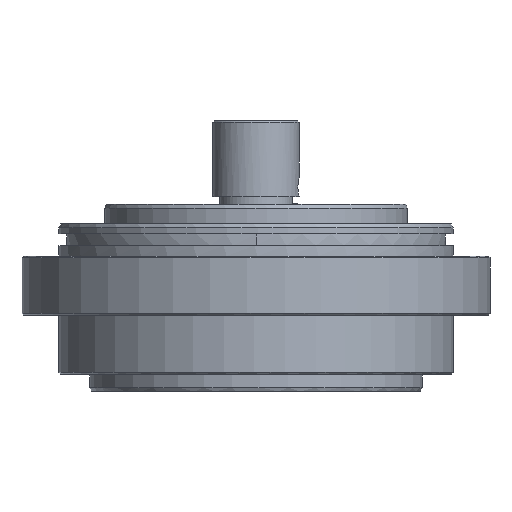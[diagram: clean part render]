
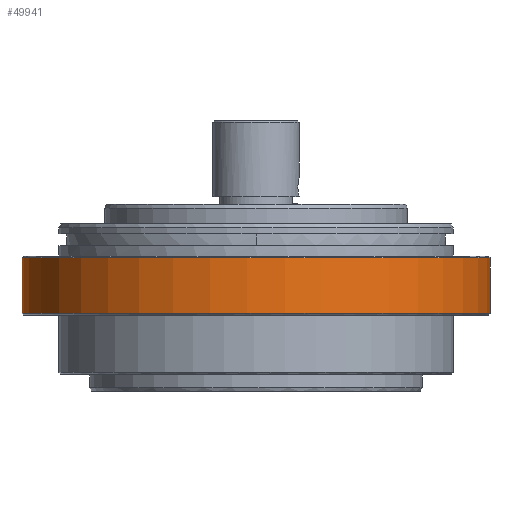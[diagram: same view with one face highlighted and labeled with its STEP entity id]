
A CAD part, front view. The second image highlights one B-rep face of the part: STEP entity #49941.
In plain terms, the highlighted cylindrical face has radius 95 mm (diameter 190 mm), a partial arc.
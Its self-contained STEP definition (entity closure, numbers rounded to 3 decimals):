
#466 = CARTESIAN_POINT ( 'NONE',  ( -75.535, -57.949, 23.2 ) ) ;
#631 = CARTESIAN_POINT ( 'NONE',  ( 75.535, -57.949, 0.8 ) ) ;
#2851 = CARTESIAN_POINT ( 'NONE',  ( -91.962, -24.632, 23.2 ) ) ;
#3301 = DIRECTION ( 'NONE',  ( 0., 0., 1. ) ) ;
#4395 = CYLINDRICAL_SURFACE ( 'NONE', #32476, 95. ) ;
#8525 = CARTESIAN_POINT ( 'NONE',  ( -75.535, -57.949, 0.8 ) ) ;
#9547 = CARTESIAN_POINT ( 'NONE',  ( -71.572, -62.779, 23.2 ) ) ;
#9730 = CARTESIAN_POINT ( 'NONE',  ( -24.632, -91.962, 0.8 ) ) ;
#10315 = CARTESIAN_POINT ( 'NONE',  ( 30.61, -90.148, 0.8 ) ) ;
#12480 = CARTESIAN_POINT ( 'NONE',  ( -95., 0., 23.2 ) ) ;
#12557 = EDGE_CURVE ( 'NONE', #87406, #104350, #89296, .T. ) ;
#16251 = CARTESIAN_POINT ( 'NONE',  ( -95., 0., 0. ) ) ;
#16844 = DIRECTION ( 'NONE',  ( 0., 0., 1. ) ) ;
#17600 = CARTESIAN_POINT ( 'NONE',  ( -71.572, -62.779, 0.8 ) ) ;
#18621 = CARTESIAN_POINT ( 'NONE',  ( -57.949, -75.535, 23.2 ) ) ;
#19210 = CARTESIAN_POINT ( 'NONE',  ( -30.61, -90.148, 23.2 ) ) ;
#19803 = CARTESIAN_POINT ( 'NONE',  ( 85.389, -42.099, 23.2 ) ) ;
#20396 = CARTESIAN_POINT ( 'NONE',  ( 82.444, -47.609, 23.2 ) ) ;
#21118 = EDGE_CURVE ( 'NONE', #64141, #87406, #91810, .T. ) ;
#21313 = B_SPLINE_CURVE_WITH_KNOTS ( 'NONE', 3,
 ( #73524, #118766, #38392, #54803, #66237, #19803, #20396, #57137, #94031, #28781, #109679, #27015, #65640, #56561, #36021, #74146, #91660, #45669, #119357, #27606, #19210, #64453, #101255, #18621, #55388, #9547, #466, #37238, #40168, #31111, #2851, #67438, #39582, #12480 ),
 .UNSPECIFIED., .F., .F.,
 ( 4, 2, 2, 2, 2, 2, 2, 2, 2, 2, 2, 2, 2, 2, 2, 2, 4 ),
 ( 0., 0.031, 0.063, 0.094, 0.125, 0.156, 0.188, 0.219, 0.25, 0.281, 0.313, 0.344, 0.375, 0.406, 0.438, 0.469, 0.5 ),
 .UNSPECIFIED. ) ;
#21342 = DIRECTION ( 'NONE',  ( 0., 0., 1. ) ) ;
#26586 = CARTESIAN_POINT ( 'NONE',  ( 71.572, -62.779, 0.8 ) ) ;
#27015 = CARTESIAN_POINT ( 'NONE',  ( 47.609, -82.444, 23.2 ) ) ;
#27606 = CARTESIAN_POINT ( 'NONE',  ( -24.632, -91.962, 23.2 ) ) ;
#27766 = CARTESIAN_POINT ( 'NONE',  ( 42.099, -85.389, 0.8 ) ) ;
#28781 = CARTESIAN_POINT ( 'NONE',  ( 62.779, -71.572, 23.2 ) ) ;
#29512 = CARTESIAN_POINT ( 'NONE',  ( -85.389, -42.099, 0.8 ) ) ;
#31111 = CARTESIAN_POINT ( 'NONE',  ( -90.148, -30.61, 23.2 ) ) ;
#31287 = CARTESIAN_POINT ( 'NONE',  ( -95., -6.218, 0.8 ) ) ;
#32476 = AXIS2_PLACEMENT_3D ( 'NONE', #67209, #21342, #105141 ) ;
#34048 = EDGE_CURVE ( 'NONE', #64141, #113037, #84757, .T. ) ;
#35007 = CARTESIAN_POINT ( 'NONE',  ( 95., -6.218, 0.8 ) ) ;
#35990 = VECTOR ( 'NONE', #3301, 1000. ) ;
#36021 = CARTESIAN_POINT ( 'NONE',  ( 24.632, -91.962, 23.2 ) ) ;
#37238 = CARTESIAN_POINT ( 'NONE',  ( -82.444, -47.609, 23.2 ) ) ;
#38392 = CARTESIAN_POINT ( 'NONE',  ( 94.388, -12.435, 23.2 ) ) ;
#39150 = CARTESIAN_POINT ( 'NONE',  ( -95., 0., 0.8 ) ) ;
#39582 = CARTESIAN_POINT ( 'NONE',  ( -95., -6.218, 23.2 ) ) ;
#40168 = CARTESIAN_POINT ( 'NONE',  ( -85.389, -42.099, 23.2 ) ) ;
#45260 = CARTESIAN_POINT ( 'NONE',  ( 85.389, -42.099, 0.8 ) ) ;
#45669 = CARTESIAN_POINT ( 'NONE',  ( -6.218, -95., 23.2 ) ) ;
#49941 = ADVANCED_FACE ( 'NONE', ( #68982 ), #4395, .T. ) ;
#53778 = CARTESIAN_POINT ( 'NONE',  ( 95., 0., 0.8 ) ) ;
#54803 = CARTESIAN_POINT ( 'NONE',  ( 91.962, -24.632, 23.2 ) ) ;
#55388 = CARTESIAN_POINT ( 'NONE',  ( -62.779, -71.572, 23.2 ) ) ;
#55546 = CARTESIAN_POINT ( 'NONE',  ( 90.148, -30.61, 0.8 ) ) ;
#56143 = CARTESIAN_POINT ( 'NONE',  ( 57.949, -75.535, 0.8 ) ) ;
#56561 = CARTESIAN_POINT ( 'NONE',  ( 30.61, -90.148, 23.2 ) ) ;
#56734 = CARTESIAN_POINT ( 'NONE',  ( -94.388, -12.435, 0.8 ) ) ;
#57137 = CARTESIAN_POINT ( 'NONE',  ( 75.535, -57.949, 23.2 ) ) ;
#63423 = CARTESIAN_POINT ( 'NONE',  ( -12.435, -94.388, 0.8 ) ) ;
#64141 = VERTEX_POINT ( 'NONE', #103533 ) ;
#64453 = CARTESIAN_POINT ( 'NONE',  ( -42.099, -85.389, 23.2 ) ) ;
#64588 = ORIENTED_EDGE ( 'NONE', *, *, #34048, .T. ) ;
#64622 = CARTESIAN_POINT ( 'NONE',  ( 6.218, -95., 0.8 ) ) ;
#65189 = CARTESIAN_POINT ( 'NONE',  ( -6.218, -95., 0.8 ) ) ;
#65640 = CARTESIAN_POINT ( 'NONE',  ( 42.099, -85.389, 23.2 ) ) ;
#65649 = CARTESIAN_POINT ( 'NONE',  ( -95., 0., 0.8 ) ) ;
#66237 = CARTESIAN_POINT ( 'NONE',  ( 90.148, -30.61, 23.2 ) ) ;
#66407 = CARTESIAN_POINT ( 'NONE',  ( -91.962, -24.632, 0.8 ) ) ;
#67209 = CARTESIAN_POINT ( 'NONE',  ( 0., 0., 0. ) ) ;
#67438 = CARTESIAN_POINT ( 'NONE',  ( -94.388, -12.435, 23.2 ) ) ;
#68982 = FACE_OUTER_BOUND ( 'NONE', #81362, .T. ) ;
#72519 = CARTESIAN_POINT ( 'NONE',  ( -47.609, -82.444, 0.8 ) ) ;
#73524 = CARTESIAN_POINT ( 'NONE',  ( 95., 0., 23.2 ) ) ;
#74146 = CARTESIAN_POINT ( 'NONE',  ( 12.435, -94.388, 23.2 ) ) ;
#74311 = CARTESIAN_POINT ( 'NONE',  ( 47.609, -82.444, 0.8 ) ) ;
#74885 = CARTESIAN_POINT ( 'NONE',  ( -90.148, -30.61, 0.8 ) ) ;
#78226 = VECTOR ( 'NONE', #16844, 1000. ) ;
#81362 = EDGE_LOOP ( 'NONE', ( #112490, #64588, #89437, #102654 ) ) ;
#82106 = CARTESIAN_POINT ( 'NONE',  ( -82.444, -47.609, 0.8 ) ) ;
#84757 = LINE ( 'NONE', #85956, #35990 ) ;
#85956 = CARTESIAN_POINT ( 'NONE',  ( 95., 0., 0. ) ) ;
#87406 = VERTEX_POINT ( 'NONE', #65649 ) ;
#89122 = CARTESIAN_POINT ( 'NONE',  ( 95., 0., 23.2 ) ) ;
#89296 = LINE ( 'NONE', #16251, #78226 ) ;
#89437 = ORIENTED_EDGE ( 'NONE', *, *, #112900, .T. ) ;
#91660 = CARTESIAN_POINT ( 'NONE',  ( 6.218, -95., 23.2 ) ) ;
#91810 = B_SPLINE_CURVE_WITH_KNOTS ( 'NONE', 3,
 ( #53778, #35007, #110463, #101402, #55546, #45260, #92424, #631, #26586, #100814, #56143, #74311, #27766, #10315, #91811, #111053, #64622, #65189, #63423, #9730, #101991, #108682, #72519, #109256, #93012, #17600, #8525, #82106, #29512, #74885, #66407, #56734, #31287, #39150 ),
 .UNSPECIFIED., .F., .F.,
 ( 4, 2, 2, 2, 2, 2, 2, 2, 2, 2, 2, 2, 2, 2, 2, 2, 4 ),
 ( 0., 0.031, 0.063, 0.094, 0.125, 0.156, 0.188, 0.219, 0.25, 0.281, 0.313, 0.344, 0.375, 0.406, 0.438, 0.469, 0.5 ),
 .UNSPECIFIED. ) ;
#91811 = CARTESIAN_POINT ( 'NONE',  ( 24.632, -91.962, 0.8 ) ) ;
#92424 = CARTESIAN_POINT ( 'NONE',  ( 82.444, -47.609, 0.8 ) ) ;
#93012 = CARTESIAN_POINT ( 'NONE',  ( -62.779, -71.572, 0.8 ) ) ;
#94031 = CARTESIAN_POINT ( 'NONE',  ( 71.572, -62.779, 23.2 ) ) ;
#100814 = CARTESIAN_POINT ( 'NONE',  ( 62.779, -71.572, 0.8 ) ) ;
#101255 = CARTESIAN_POINT ( 'NONE',  ( -47.609, -82.444, 23.2 ) ) ;
#101402 = CARTESIAN_POINT ( 'NONE',  ( 91.962, -24.632, 0.8 ) ) ;
#101991 = CARTESIAN_POINT ( 'NONE',  ( -30.61, -90.148, 0.8 ) ) ;
#102654 = ORIENTED_EDGE ( 'NONE', *, *, #12557, .F. ) ;
#103533 = CARTESIAN_POINT ( 'NONE',  ( 95., 0., 0.8 ) ) ;
#104350 = VERTEX_POINT ( 'NONE', #116152 ) ;
#105141 = DIRECTION ( 'NONE',  ( -1., 0., 0. ) ) ;
#108682 = CARTESIAN_POINT ( 'NONE',  ( -42.099, -85.389, 0.8 ) ) ;
#109256 = CARTESIAN_POINT ( 'NONE',  ( -57.949, -75.535, 0.8 ) ) ;
#109679 = CARTESIAN_POINT ( 'NONE',  ( 57.949, -75.535, 23.2 ) ) ;
#110463 = CARTESIAN_POINT ( 'NONE',  ( 94.388, -12.435, 0.8 ) ) ;
#111053 = CARTESIAN_POINT ( 'NONE',  ( 12.435, -94.388, 0.8 ) ) ;
#112490 = ORIENTED_EDGE ( 'NONE', *, *, #21118, .F. ) ;
#112900 = EDGE_CURVE ( 'NONE', #113037, #104350, #21313, .T. ) ;
#113037 = VERTEX_POINT ( 'NONE', #89122 ) ;
#116152 = CARTESIAN_POINT ( 'NONE',  ( -95., 0., 23.2 ) ) ;
#118766 = CARTESIAN_POINT ( 'NONE',  ( 95., -6.218, 23.2 ) ) ;
#119357 = CARTESIAN_POINT ( 'NONE',  ( -12.435, -94.388, 23.2 ) ) ;
